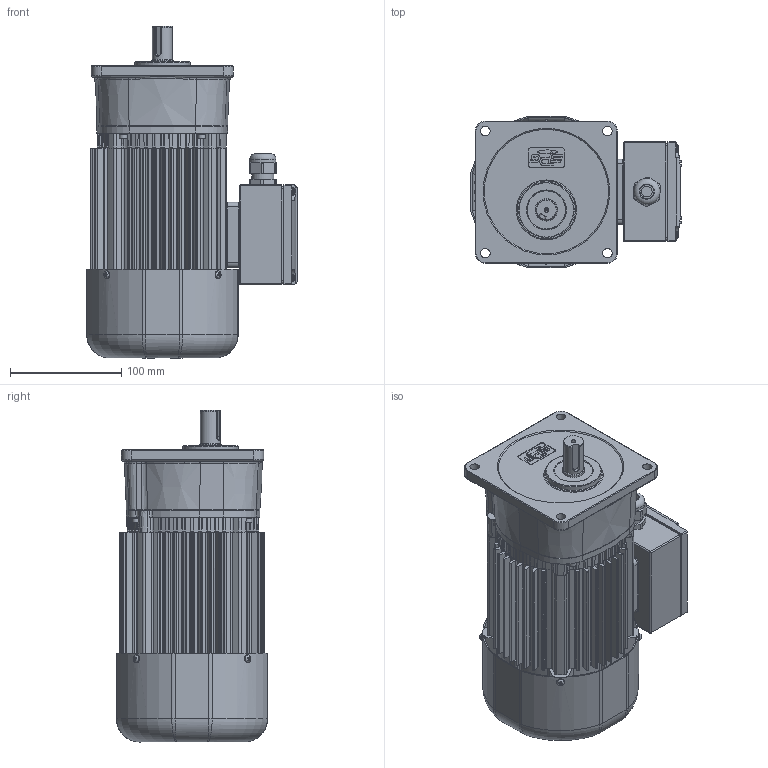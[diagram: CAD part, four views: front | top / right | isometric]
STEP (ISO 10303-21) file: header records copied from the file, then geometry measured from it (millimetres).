
FILE_DESCRIPTION(/* description */ (''),/* implementation_level */ '2;1');
FILE_NAME(/* name */ 'Z:\동력 3D 파일\PAK18_0.2kW_Brake_3D.stp',/* time_stamp */ '2021-11-09T08:25:14+09:00',/* author */ ('jaebok'),/* organization */ (''),/* preprocessor_version */ 'ST-DEVELOPER v18.1',/* originating_system */ 'Autodesk Inventor 2022',/* authorisation */ '');
FILE_SCHEMA (('AUTOMOTIVE_DESIGN { 1 0 10303 214 3 1 1 }'));
Products named in the file (1): 부품2
Bounding box: 189.7 x 136.4 x 299 mm (x, y, z)
Volume: 1377090 mm3; surface area: 476561.7 mm2
Topology: 2 solids, 34 shells, 2447 faces, 6219 edges, 3929 vertices
Faces by surface type: plane 1113, cylinder 761, bspline 244, cone 192, torus 119, sphere 18
Full cylindrical faces by diameter (mm): 1.5 x2, 2 x5, 3 x4, 3.242 x4, 3.25 x1, 3.3 x8, 3.4 x4, 3.6 x4, 3.8 x3, 4 x24, 4.2 x9, 4.5 x4, 4.917 x4, 5 x19, 5.8 x2, 5.9 x3, 6 x13, 6.4 x1, 6.5 x10, 7 x16, 7.9 x6, 8 x4, 8.5 x1, 8.6 x4, 8.7 x1, 10 x1, 12 x1, 12.5 x1, 15 x1, 16 x1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
Entity records: 87561 total; most frequent: CARTESIAN_POINT 26591, ORIENTED_EDGE 12356, DIRECTION 12335, EDGE_CURVE 6178, AXIS2_PLACEMENT_3D 4808, VERTEX_POINT 3924, LINE 2719, VECTOR 2719
